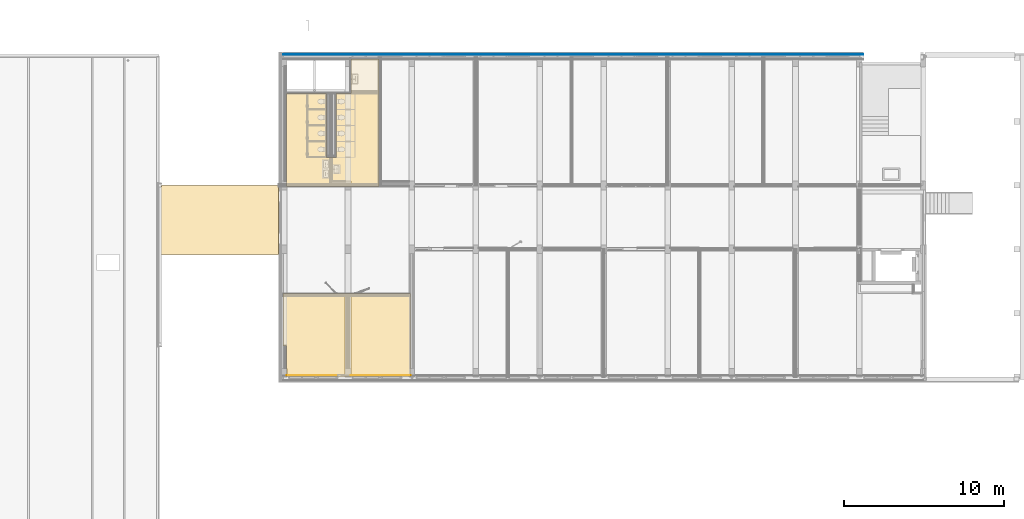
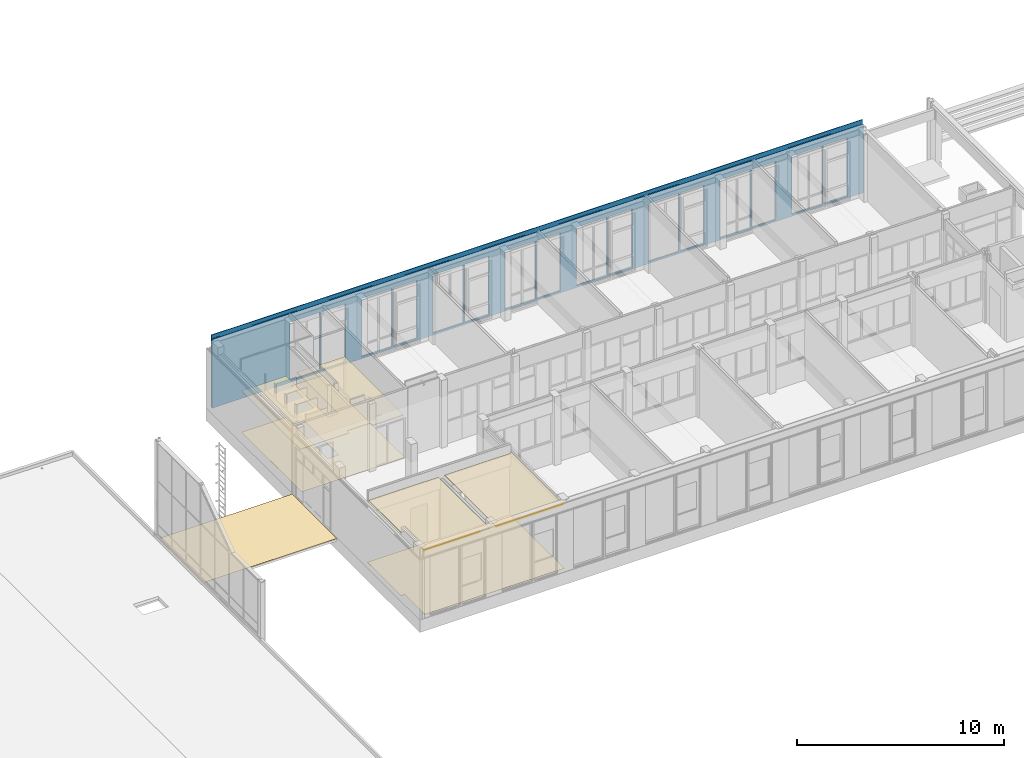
# One storey, part 43 of 54: 8 coverings, 3 building element parts, 16 openings, 1 element without a shape of its own.
"""IFC2X3 building model written with IfcOpenShell, lengths in millimetres."""

from ifc_helpers import new_model, entity, si_unit, converted_unit, derived_unit, money_unit, direction, frame, origin_with_axes, place, context, subcontext, project, spatial, faceted_brep, material, type_object, element, aggregate, save


model = new_model("IFC2X3")

# Units and contexts
model_context = context("Model", 3, precision=0.01, world=origin_with_axes(), true_north=direction((0.0, 1.0)))
body_context = subcontext(model_context, "Body", "Model", "MODEL_VIEW")
ifc_project = project(units=[si_unit("LENGTHUNIT", "METRE", prefix="MILLI"), si_unit("AREAUNIT", "SQUARE_METRE"), si_unit("VOLUMEUNIT", "CUBIC_METRE"), converted_unit("PLANEANGLEUNIT", "DEGREE", entity("IfcPlaneAngleMeasure", 0.0174532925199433), si_unit("PLANEANGLEUNIT", "RADIAN"), dimensions=[0, 0, 0, 0, 0, 0, 0]), money_unit("EUR"), converted_unit("TIMEUNIT", "Year", entity("IfcTimeMeasure", 31557600.0), si_unit("TIMEUNIT", "SECOND"), dimensions=[0, 0, 1, 0, 0, 0, 0]), si_unit("MASSUNIT", "GRAM", prefix="KILO"), si_unit("THERMODYNAMICTEMPERATUREUNIT", "DEGREE_CELSIUS"), si_unit("LUMINOUSINTENSITYUNIT", "LUMEN"), si_unit("ENERGYUNIT", "JOULE", prefix="MEGA"), derived_unit("THERMALCONDUCTANCEUNIT", [(si_unit("POWERUNIT", "WATT"), 1), (si_unit("LENGTHUNIT", "METRE"), -1), (si_unit("THERMODYNAMICTEMPERATUREUNIT", "KELVIN"), -1)]), derived_unit("SPECIFICHEATCAPACITYUNIT", [(si_unit("ENERGYUNIT", "JOULE"), 1), (si_unit("MASSUNIT", "GRAM", prefix="KILO"), -1), (si_unit("THERMODYNAMICTEMPERATUREUNIT", "KELVIN"), -1)]), derived_unit("MASSDENSITYUNIT", [(si_unit("MASSUNIT", "GRAM", prefix="KILO"), 1), (si_unit("VOLUMEUNIT", "CUBIC_METRE"), -1)])], contexts=[model_context])

# Site, building, storey
site_placement = place(None, origin_with_axes())
site = spatial("IfcSite", under=ifc_project, at=site_placement, Name="<site naam>", CompositionType="ELEMENT")
building_placement = place(site_placement, origin_with_axes())
building = spatial("IfcBuilding", under=site, at=building_placement, Name="<Naam gebouw>", CompositionType="ELEMENT")
storey_placement = place(building_placement, frame((0.0, 0.0, 8500.0), z_axis=(0.0, 0.0, 1.0), x_axis=(1.0, 0.0, 0.0)))
storey = spatial("IfcBuildingStorey", under=building, at=storey_placement, Name="02 2e verdieping", CompositionType="ELEMENT", Elevation=8500.0)

# Coverings
ifc_material_1 = material(Name="Gietvloer type 02a")
covering_type_1 = type_object("IfcCoveringType", Name="VA-02a 3", PredefinedType="CEILING")
covering_1_placement = place(storey_placement, frame((12150.00000055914, 11923.61669642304, 0.0), z_axis=(0.0, 0.0, 1.0), x_axis=(1.0, 0.0, 0.0)))
element("IfcCovering", 1, at=covering_1_placement, inside=storey, type_object=covering_type_1, material=ifc_material_1, Name="43_Vloer_VA-02a", PredefinedType="CEILING", context=body_context, shape_type="Brep", body=[
    faceted_brep([(0.0, 0.0, 3.000000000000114), (0.0, 0.0, 0.0), (5774.938324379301, 0.0, 0.0), (5774.938324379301, 0.0, 3.000000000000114), (0.0, 5826.383403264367, 3.000000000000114), (0.0, 5826.383403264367, 0.0), (2499.999999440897, 5826.383303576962, 0.0), (2499.999999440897, 1826.129275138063, 0.0), (3100.000006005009, 1826.381999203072, 0.0), (3100.537600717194, 5826.383303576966, 0.0), (4024.999999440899, 5826.38331123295, 0.0), (4024.999999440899, 8001.383300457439, 0.0), (5774.938324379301, 8001.383300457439, 0.0), (5774.938324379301, 8001.383300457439, 3.000000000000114), (4024.999999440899, 8001.383300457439, 3.000000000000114), (4024.999999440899, 5826.38331123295, 3.000000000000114), (3100.537600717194, 5826.383303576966, 3.000000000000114), (3100.000006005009, 1826.381999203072, 3.000000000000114), (2499.999999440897, 1826.129275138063, 3.000000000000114), (2499.999999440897, 5826.383303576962, 3.000000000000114)], [[[0, 1, 2, 3]], [[4, 5, 1, 0]], [[2, 1, 5, 6, 7, 8, 9, 10, 11, 12]], [[3, 2, 12, 13]], [[4, 0, 3, 13, 14, 15, 16, 17, 18, 19]], [[19, 6, 5, 4]], [[18, 7, 6, 19]], [[17, 8, 7, 18]], [[16, 9, 8, 17]], [[15, 10, 9, 16]], [[14, 11, 10, 15]], [[13, 12, 11, 14]]]),
])
ifc_material_2 = material(Name="systeemplafond 600*600 kleur wit")
covering_type_2 = type_object("IfcCoveringType", Name="PA-01a 40", PredefinedType="CEILING")
covering_2_placement = place(storey_placement, frame((11935.00000000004, 1954.999846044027, 3699.999999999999), z_axis=(0.0, 0.0, 1.0), x_axis=(1.0, 0.0, 0.0)))
element("IfcCovering", 2, at=covering_2_placement, inside=storey, type_object=covering_type_2, material=ifc_material_2, Name="45_Vloer_PA-01a", PredefinedType="CEILING", context=body_context, shape_type="Brep", body=[
    faceted_brep([(3889.999999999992, -1838.999846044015, 0.0), (3889.999999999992, 3132.500153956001, 0.0), (3889.999999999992, 3132.500153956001, 40.00000000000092), (3889.999999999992, -1838.999846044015, 40.00000000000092), (0.0, 0.0, 0.0), (0.0, 3132.500153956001, 0.0), (240.0001570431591, -1838.999846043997, 0.0), (239.9999999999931, -1404.999846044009, 0.0), (214.9999105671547, -1404.999843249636, 0.0), (215.0000676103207, 0.0, 0.0), (0.0, 3132.500153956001, 40.00000000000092), (0.0, 0.0, 40.00000000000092), (215.0000676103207, 0.0, 40.00000000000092), (214.9999105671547, -1404.999843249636, 40.00000000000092), (239.9999999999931, -1404.999846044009, 40.00000000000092), (240.0001570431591, -1838.999846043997, 40.00000000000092)], [[[0, 1, 2, 3]], [[4, 5, 1, 0, 6, 7, 8, 9]], [[5, 10, 2, 1]], [[3, 2, 10, 11, 12, 13, 14, 15]], [[3, 15, 6, 0]], [[11, 10, 5, 4]], [[15, 14, 7, 6]], [[14, 13, 8, 7]], [[13, 12, 9, 8]], [[12, 11, 4, 9]]]),
])
covering_3_placement = place(storey_placement, frame((12150.00000055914, 17749.99999999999, 2400.0), z_axis=(0.0, 0.0, 1.0), x_axis=(1.0, 0.0, 0.0)))
element("IfcCovering", 3, at=covering_3_placement, inside=storey, type_object=covering_type_2, material=ifc_material_2, Name="45_Vloer_PA-01a", PredefinedType="CEILING", context=body_context, shape_type="Brep", body=[
    faceted_brep([(0.0, 0.0, 39.99999999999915), (0.0, 0.0, 0.0), (0.0, -5678.578480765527, 0.0), (0.0, -5678.578480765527, 39.99999999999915), (2499.999990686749, 0.0, 39.99999999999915), (2499.999990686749, 0.0, 0.0), (2499.999990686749, -4000.043348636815, 0.0), (3100.000078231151, -4000.043348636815, 0.0), (3100.000078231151, 0.0, 0.0), (5773.677413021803, 0.0, 0.0), (5773.677413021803, -5678.578480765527, 0.0), (4025.000007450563, -5678.578480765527, 0.0), (4025.000007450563, -5674.999956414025, 0.0), (4025.850309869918, -5674.999956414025, 0.0), (4025.850309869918, -5470.211383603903, 0.0), (2724.993368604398, -5470.211383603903, 0.0), (2724.993368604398, -5674.999956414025, 0.0), (1775.000060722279, -5674.999956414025, 0.0), (1775.000060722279, -5678.578480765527, 0.0), (1775.000060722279, -5678.578480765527, 39.99999999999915), (1775.000060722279, -5674.999956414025, 39.99999999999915), (2724.993368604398, -5674.999956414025, 39.99999999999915), (2724.993368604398, -5470.211383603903, 39.99999999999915), (4025.850309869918, -5470.211383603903, 39.99999999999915), (4025.850309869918, -5674.999956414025, 39.99999999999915), (4025.000007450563, -5674.999956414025, 39.99999999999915), (4025.000007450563, -5678.578480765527, 39.99999999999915), (5773.677413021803, -5678.578480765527, 39.99999999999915), (5773.677413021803, 0.0, 39.99999999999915), (3100.000078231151, 0.0, 39.99999999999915), (3100.000078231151, -4000.043348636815, 39.99999999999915), (2499.999990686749, -4000.043348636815, 39.99999999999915)], [[[0, 1, 2, 3]], [[4, 5, 1, 0]], [[2, 1, 5, 6, 7, 8, 9, 10, 11, 12, 13, 14, 15, 16, 17, 18]], [[3, 2, 18, 19]], [[4, 0, 3, 19, 20, 21, 22, 23, 24, 25, 26, 27, 28, 29, 30, 31]], [[31, 6, 5, 4]], [[30, 7, 6, 31]], [[29, 8, 7, 30]], [[28, 9, 8, 29]], [[27, 10, 9, 28]], [[26, 11, 10, 27]], [[25, 12, 11, 26]], [[24, 13, 12, 25]], [[23, 14, 13, 24]], [[22, 15, 14, 23]], [[21, 16, 15, 22]], [[20, 17, 16, 21]], [[19, 18, 17, 20]]]),
])
covering_4_placement = place(storey_placement, frame((16174.99999741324, 5204.999954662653, 3699.999999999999), z_axis=(0.0, 0.0, 1.0), x_axis=(1.0, 0.0, 0.0)))
element("IfcCovering", 4, at=covering_4_placement, inside=storey, type_object=covering_type_2, material=ifc_material_2, Name="45_Vloer_PA-01a", PredefinedType="CEILING", context=body_context, shape_type="Brep", body=[
    faceted_brep([(3690.000002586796, 0.0, 40.00000000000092), (3690.000002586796, 0.0, 0.0), (3690.000002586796, -117.499954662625, 0.0), (3690.000002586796, -117.499954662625, 40.00000000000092), (3750.000178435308, 0.0, 0.0), (3750.000178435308, 0.0, 40.00000000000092), (0.0, -117.499954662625, 0.0), (3749.999986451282, -5088.99995466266, 0.0), (0.0, -5088.999954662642, 0.0), (0.0, -117.499954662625, 39.99999999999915), (0.0, -5088.999954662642, 40.00000000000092), (3749.999986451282, -5088.99995466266, 40.00000000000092)], [[[0, 1, 2, 3]], [[4, 1, 0, 5]], [[6, 2, 1, 4, 7, 8]], [[6, 9, 3, 2]], [[0, 3, 9, 10, 11, 5]], [[5, 11, 7, 4]], [[11, 10, 8, 7]], [[10, 9, 6, 8]]]),
])
covering_5_placement = place(storey_placement, frame((16174.99999741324, 116.0000000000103, 3699.999999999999), z_axis=(0.0, 0.0, 1.0), x_axis=(1.0, 0.0, 0.0)))
element("IfcCovering", 5, at=covering_5_placement, inside=storey, type_object=covering_type_2, material=ifc_material_2, Name="45_Vloer_PA-01a", PredefinedType="CEILING", context=body_context, shape_type="Brep", body=[
    faceted_brep([(0.0, 0.0, 40.00000000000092), (0.0, -6.500000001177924, 40.00000000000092), (3749.999986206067, -6.500000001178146, 40.00000000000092), (3749.999986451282, 0.0, 40.00000000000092), (0.0, 0.0, 0.0), (0.0, -6.500000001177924, 0.0), (3749.999986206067, -6.500000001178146, 0.0), (3749.999986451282, 0.0, 0.0)], [[[0, 1, 2, 3]], [[4, 5, 1, 0]], [[5, 6, 2, 1]], [[3, 2, 6, 7]], [[0, 3, 7, 4]], [[7, 6, 5, 4]]]),
])
covering_6_placement = place(storey_placement, frame((12175.0001570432, 116.00000000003, 3699.999999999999), z_axis=(0.0, 0.0, 1.0), x_axis=(1.0, 0.0, 0.0)))
element("IfcCovering", 6, at=covering_6_placement, inside=storey, type_object=covering_type_2, material=ifc_material_2, Name="45_Vloer_PA-01a", PredefinedType="CEILING", context=body_context, shape_type="Brep", body=[
    faceted_brep([(0.0, 0.0, 40.00000000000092), (0.0, -6.500000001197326, 40.00000000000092), (3091.999842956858, -6.50000000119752, 40.00000000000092), (3091.999842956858, 0.0, 40.00000000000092), (0.0, 0.0, 0.0), (0.0, -6.500000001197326, 0.0), (3091.999842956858, -6.50000000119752, 0.0), (3091.999842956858, 0.0, 0.0)], [[[0, 1, 2, 3]], [[4, 5, 1, 0]], [[5, 6, 2, 1]], [[3, 2, 6, 7]], [[0, 3, 7, 4]], [[7, 6, 5, 4]]]),
])
ifc_material_3 = material(Name="tapijttegel")
covering_type_3 = type_object("IfcCoveringType", Name="VA-05 3", PredefinedType="CEILING")
covering_7_placement = place(storey_placement, frame((11935.00006938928, 5223.199663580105, 0.0), z_axis=(0.0, 0.0, 1.0), x_axis=(1.0, 0.0, 0.0)))
element("IfcCovering", 7, at=covering_7_placement, inside=storey, type_object=covering_type_3, material=ifc_material_3, Name="43_Vloer_VA-05", PredefinedType="CEILING", context=body_context, shape_type="Brep", body=[
    faceted_brep([(0.0, 0.0, 3.000000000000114), (0.0, 0.0, 0.0), (0.0, -3268.19969881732, 0.0), (0.0, -3268.19969881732, 3.000000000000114), (7989.998683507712, 4.131143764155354, 3.000000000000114), (7989.998683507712, 4.131143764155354, 0.0), (7990.064561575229, -123.1996560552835, 0.0), (7989.999916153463, -123.1996560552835, 0.0), (7989.999916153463, -5223.199695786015, 0.0), (214.9999898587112, -5223.199695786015, 0.0), (214.9999898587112, -3268.19969881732, 0.0), (214.9999898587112, -3268.19969881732, 3.000000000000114), (214.9999898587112, -5223.199695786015, 3.000000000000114), (7989.999916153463, -5223.199695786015, 3.000000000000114), (7989.999916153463, -123.1996560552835, 3.000000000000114), (7990.064561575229, -123.1996560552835, 3.000000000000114)], [[[0, 1, 2, 3]], [[4, 5, 1, 0]], [[2, 1, 5, 6, 7, 8, 9, 10]], [[3, 2, 10, 11]], [[4, 0, 3, 11, 12, 13, 14, 15]], [[15, 6, 5, 4]], [[14, 7, 6, 15]], [[13, 8, 7, 14]], [[12, 9, 8, 13]], [[11, 10, 9, 12]]]),
])
ifc_material_4 = material(Name="Behoud natuursteen tegels")
covering_type_4 = type_object("IfcCoveringType", Name="VA-06 3", PredefinedType="CEILING")
covering_8_placement = place(storey_placement, frame((4270.04446815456, 7680.000000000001, 0.0), z_axis=(0.0, 0.0, 1.0), x_axis=(1.0, 0.0, 0.0)))
element("IfcCovering", 8, at=covering_8_placement, inside=storey, type_object=covering_type_4, material=ifc_material_4, Name="43_Vloer_VA-06", PredefinedType="CEILING", context=body_context, shape_type="Brep", body=[
    faceted_brep([(7394.955531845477, 4320.000000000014, 0.0), (54.45568861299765, 4320.000000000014, 0.0), (54.45568861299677, 4320.000000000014, 3.000000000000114), (7394.955531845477, 4320.000000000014, 3.000000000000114), (0.0, 4220.978752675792, 0.0), (54.4556888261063, 4220.978752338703, 0.0), (7394.955531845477, 0.0, 0.0), (0.0, 0.0, 0.0), (54.4556888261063, 4220.978752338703, 3.000000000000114), (0.0, 4220.978752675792, 3.000000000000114), (0.0, 0.0, 3.000000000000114), (7394.955531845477, 0.0, 3.000000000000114)], [[[0, 1, 2, 3]], [[4, 5, 1, 0, 6, 7]], [[5, 8, 2, 1]], [[2, 8, 9, 10, 11, 3]], [[3, 11, 6, 0]], [[4, 9, 8, 5]], [[11, 10, 7, 6]], [[10, 9, 4, 7]]]),
])

# Wall, openings, building element parts
wall_type = type_object("IfcWallType", Name="HSB_285 gevelbeplating 420", PredefinedType="NOTDEFINED")
wall_placement = place(storey_placement, frame((48251.99999966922, 20297.99999999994, 0.0), z_axis=(0.0, 0.0, 1.0), x_axis=(-1.0, 0.0, 0.0)))
wall = element("IfcWall", 9, at=wall_placement, inside=storey, type_object=wall_type, Name="21_Binnenwand_HSB_285")
opening_1_placement = place(wall_placement, frame((1551.00001094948, 0.0, 99.99999999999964), z_axis=(0.0, 0.0, 1.0), x_axis=(1.0, 0.0, 0.0)))
element("IfcOpeningElement", 10, at=opening_1_placement, cuts=wall, Name="21_BU-A-22b sp_305", context=body_context, shape_type="Brep", body=[
    faceted_brep([(662.9999999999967, 213.000000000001, 3450.000000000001), (-662.9999999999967, 213.000000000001, 3450.000000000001), (-662.9999999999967, -1.000000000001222, 3450.000000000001), (662.9999999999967, -1.000000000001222, 3450.000000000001), (662.9999999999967, 421.000000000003, 3450.000000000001), (-662.9999999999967, 421.000000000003, 3450.000000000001), (-662.9999999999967, 213.000000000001, 0.0), (-662.9999999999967, -1.000000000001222, 0.0), (662.9999999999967, -1.000000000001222, 0.0), (662.9999999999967, 213.000000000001, 0.0), (662.9999999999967, 421.000000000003, 0.0), (-662.9999999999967, 421.000000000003, 0.0)], [[[0, 1, 2, 3]], [[1, 0, 4, 5]], [[1, 6, 7, 2]], [[2, 7, 8, 3]], [[9, 0, 3, 8]], [[0, 9, 10, 4]], [[4, 10, 11, 5]], [[6, 1, 5, 11]], [[6, 9, 8, 7]], [[9, 6, 11, 10]]]),
])
opening_2_placement = place(wall_placement, frame((3141.000024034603, 0.0, 99.99999999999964), z_axis=(0.0, 0.0, 1.0), x_axis=(1.0, 0.0, 0.0)))
element("IfcOpeningElement", 11, at=opening_2_placement, cuts=wall, Name="21_BU-A-22a sp_305", context=body_context, shape_type="Brep", body=[
    faceted_brep([(850.9999999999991, 213.000000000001, 3450.000000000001), (-850.9999999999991, 213.000000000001, 3450.000000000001), (-850.9999999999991, -1.000000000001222, 3450.000000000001), (850.9999999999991, -1.000000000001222, 3450.000000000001), (850.9999999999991, 421.000000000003, 3450.000000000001), (-850.9999999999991, 421.000000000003, 3450.000000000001), (-850.9999999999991, 213.000000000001, 0.0), (-850.9999999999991, -1.000000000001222, 0.0), (850.9999999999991, -1.000000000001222, 0.0), (850.9999999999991, 213.000000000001, 0.0), (850.9999999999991, 421.000000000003, 0.0), (-850.9999999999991, 421.000000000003, 0.0)], [[[0, 1, 2, 3]], [[1, 0, 4, 5]], [[1, 6, 7, 2]], [[2, 7, 8, 3]], [[9, 0, 3, 8]], [[0, 9, 10, 4]], [[4, 10, 11, 5]], [[6, 1, 5, 11]], [[6, 9, 8, 7]], [[9, 6, 11, 10]]]),
])
opening_3_placement = place(wall_placement, frame((7140.999999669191, 0.0, 99.99999999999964), z_axis=(0.0, 0.0, 1.0), x_axis=(1.0, 0.0, 0.0)))
element("IfcOpeningElement", 12, at=opening_3_placement, cuts=wall, Name="21_BU-A-22a sp_305", context=body_context, shape_type="Brep", body=[
    faceted_brep([(850.9999999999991, 213.000000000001, 3450.000000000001), (-850.9999999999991, 213.000000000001, 3450.000000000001), (-850.9999999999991, -1.000000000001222, 3450.000000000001), (850.9999999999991, -1.000000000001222, 3450.000000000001), (850.9999999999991, 421.000000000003, 3450.000000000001), (-850.9999999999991, 421.000000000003, 3450.000000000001), (-850.9999999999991, 213.000000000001, 0.0), (-850.9999999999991, -1.000000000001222, 0.0), (850.9999999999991, -1.000000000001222, 0.0), (850.9999999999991, 213.000000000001, 0.0), (850.9999999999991, 421.000000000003, 0.0), (-850.9999999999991, 421.000000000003, 0.0)], [[[0, 1, 2, 3]], [[1, 0, 4, 5]], [[1, 6, 7, 2]], [[2, 7, 8, 3]], [[9, 0, 3, 8]], [[0, 9, 10, 4]], [[4, 10, 11, 5]], [[6, 1, 5, 11]], [[6, 9, 8, 7]], [[9, 6, 11, 10]]]),
])
opening_4_placement = place(wall_placement, frame((11140.99999966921, 0.0, 99.99999999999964), z_axis=(0.0, 0.0, 1.0), x_axis=(1.0, 0.0, 0.0)))
element("IfcOpeningElement", 13, at=opening_4_placement, cuts=wall, Name="21_BU-A-22a sp_305", context=body_context, shape_type="Brep", body=[
    faceted_brep([(850.9999999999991, 213.000000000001, 3450.000000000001), (-850.9999999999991, 213.000000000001, 3450.000000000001), (-850.9999999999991, -1.000000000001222, 3450.000000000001), (850.9999999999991, -1.000000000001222, 3450.000000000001), (850.9999999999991, 421.000000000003, 3450.000000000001), (-850.9999999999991, 421.000000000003, 3450.000000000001), (-850.9999999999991, 213.000000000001, 0.0), (-850.9999999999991, -1.000000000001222, 0.0), (850.9999999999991, -1.000000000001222, 0.0), (850.9999999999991, 213.000000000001, 0.0), (850.9999999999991, 421.000000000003, 0.0), (-850.9999999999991, 421.000000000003, 0.0)], [[[0, 1, 2, 3]], [[1, 0, 4, 5]], [[1, 6, 7, 2]], [[2, 7, 8, 3]], [[9, 0, 3, 8]], [[0, 9, 10, 4]], [[4, 10, 11, 5]], [[6, 1, 5, 11]], [[6, 9, 8, 7]], [[9, 6, 11, 10]]]),
])
opening_5_placement = place(wall_placement, frame((9550.999999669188, 0.0, 99.99999999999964), z_axis=(0.0, 0.0, 1.0), x_axis=(1.0, 0.0, 0.0)))
element("IfcOpeningElement", 14, at=opening_5_placement, cuts=wall, Name="21_BU-A-22b sp_305", context=body_context, shape_type="Brep", body=[
    faceted_brep([(662.9999999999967, 213.000000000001, 3450.000000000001), (-662.9999999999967, 213.000000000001, 3450.000000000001), (-662.9999999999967, -1.000000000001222, 3450.000000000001), (662.9999999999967, -1.000000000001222, 3450.000000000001), (662.9999999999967, 421.000000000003, 3450.000000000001), (-662.9999999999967, 421.000000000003, 3450.000000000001), (-662.9999999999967, 213.000000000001, 0.0), (-662.9999999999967, -1.000000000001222, 0.0), (662.9999999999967, -1.000000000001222, 0.0), (662.9999999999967, 213.000000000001, 0.0), (662.9999999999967, 421.000000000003, 0.0), (-662.9999999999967, 421.000000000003, 0.0)], [[[0, 1, 2, 3]], [[1, 0, 4, 5]], [[1, 6, 7, 2]], [[2, 7, 8, 3]], [[9, 0, 3, 8]], [[0, 9, 10, 4]], [[4, 10, 11, 5]], [[6, 1, 5, 11]], [[6, 9, 8, 7]], [[9, 6, 11, 10]]]),
])
opening_6_placement = place(wall_placement, frame((5550.999999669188, 0.0, 99.99999999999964), z_axis=(0.0, 0.0, 1.0), x_axis=(1.0, 0.0, 0.0)))
element("IfcOpeningElement", 15, at=opening_6_placement, cuts=wall, Name="21_BU-A-22b sp_305", context=body_context, shape_type="Brep", body=[
    faceted_brep([(662.9999999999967, 213.000000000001, 3450.000000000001), (-662.9999999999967, 213.000000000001, 3450.000000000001), (-662.9999999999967, -1.000000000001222, 3450.000000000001), (662.9999999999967, -1.000000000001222, 3450.000000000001), (662.9999999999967, 421.000000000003, 3450.000000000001), (-662.9999999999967, 421.000000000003, 3450.000000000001), (-662.9999999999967, 213.000000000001, 0.0), (-662.9999999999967, -1.000000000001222, 0.0), (662.9999999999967, -1.000000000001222, 0.0), (662.9999999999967, 213.000000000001, 0.0), (662.9999999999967, 421.000000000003, 0.0), (-662.9999999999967, 421.000000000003, 0.0)], [[[0, 1, 2, 3]], [[1, 0, 4, 5]], [[1, 6, 7, 2]], [[2, 7, 8, 3]], [[9, 0, 3, 8]], [[0, 9, 10, 4]], [[4, 10, 11, 5]], [[6, 1, 5, 11]], [[6, 9, 8, 7]], [[9, 6, 11, 10]]]),
])
opening_7_placement = place(wall_placement, frame((13550.99999966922, 0.0, 99.99999999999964), z_axis=(0.0, 0.0, 1.0), x_axis=(1.0, 0.0, 0.0)))
element("IfcOpeningElement", 16, at=opening_7_placement, cuts=wall, Name="21_BU-A-22b sp_305", context=body_context, shape_type="Brep", body=[
    faceted_brep([(662.9999999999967, 213.000000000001, 3450.000000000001), (-662.9999999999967, 213.000000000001, 3450.000000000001), (-662.9999999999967, -1.000000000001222, 3450.000000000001), (662.9999999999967, -1.000000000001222, 3450.000000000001), (662.9999999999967, 421.000000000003, 3450.000000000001), (-662.9999999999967, 421.000000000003, 3450.000000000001), (-662.9999999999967, 213.000000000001, 0.0), (-662.9999999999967, -1.000000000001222, 0.0), (662.9999999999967, -1.000000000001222, 0.0), (662.9999999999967, 213.000000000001, 0.0), (662.9999999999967, 421.000000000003, 0.0), (-662.9999999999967, 421.000000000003, 0.0)], [[[0, 1, 2, 3]], [[1, 0, 4, 5]], [[1, 6, 7, 2]], [[2, 7, 8, 3]], [[9, 0, 3, 8]], [[0, 9, 10, 4]], [[4, 10, 11, 5]], [[6, 1, 5, 11]], [[6, 9, 8, 7]], [[9, 6, 11, 10]]]),
])
opening_8_placement = place(wall_placement, frame((19140.98053610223, 0.0, 99.99999999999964), z_axis=(0.0, 0.0, 1.0), x_axis=(1.0, 0.0, 0.0)))
element("IfcOpeningElement", 17, at=opening_8_placement, cuts=wall, Name="21_BU-A-22a sp_305", context=body_context, shape_type="Brep", body=[
    faceted_brep([(850.9999999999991, 212.9999999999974, 3450.000000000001), (-850.9999999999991, 212.9999999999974, 3450.000000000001), (-850.9999999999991, -1.000000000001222, 3450.000000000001), (850.9999999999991, -1.000000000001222, 3450.000000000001), (850.9999999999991, 421.000000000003, 3450.000000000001), (-850.9999999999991, 421.000000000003, 3450.000000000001), (-850.9999999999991, 212.9999999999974, 0.0), (-850.9999999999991, -1.000000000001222, 0.0), (850.9999999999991, -1.000000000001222, 0.0), (850.9999999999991, 212.9999999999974, 0.0), (850.9999999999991, 421.000000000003, 0.0), (-850.9999999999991, 421.000000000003, 0.0)], [[[0, 1, 2, 3]], [[1, 0, 4, 5]], [[1, 6, 7, 2]], [[2, 7, 8, 3]], [[9, 0, 3, 8]], [[0, 9, 10, 4]], [[4, 10, 11, 5]], [[6, 1, 5, 11]], [[6, 9, 8, 7]], [[9, 6, 11, 10]]]),
])
opening_9_placement = place(wall_placement, frame((17550.99999966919, 0.0, 99.99999999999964), z_axis=(0.0, 0.0, 1.0), x_axis=(1.0, 0.0, 0.0)))
element("IfcOpeningElement", 18, at=opening_9_placement, cuts=wall, Name="21_BU-A-22b sp_305", context=body_context, shape_type="Brep", body=[
    faceted_brep([(663.0000000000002, 212.9999999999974, 3450.000000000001), (-663.0000000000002, 212.9999999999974, 3450.000000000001), (-663.0000000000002, -1.000000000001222, 3450.000000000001), (663.0000000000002, -1.000000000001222, 3450.000000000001), (663.0000000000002, 421.000000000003, 3450.000000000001), (-663.0000000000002, 421.000000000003, 3450.000000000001), (-663.0000000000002, 212.9999999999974, 0.0), (-663.0000000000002, -1.000000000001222, 0.0), (663.0000000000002, -1.000000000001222, 0.0), (663.0000000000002, 212.9999999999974, 0.0), (663.0000000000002, 421.000000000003, 0.0), (-663.0000000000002, 421.000000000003, 0.0)], [[[0, 1, 2, 3]], [[1, 0, 4, 5]], [[1, 6, 7, 2]], [[2, 7, 8, 3]], [[9, 0, 3, 8]], [[0, 9, 10, 4]], [[4, 10, 11, 5]], [[6, 1, 5, 11]], [[6, 9, 8, 7]], [[9, 6, 11, 10]]]),
])
opening_10_placement = place(wall_placement, frame((23141.0125073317, 0.0, 99.99999999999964), z_axis=(0.0, 0.0, 1.0), x_axis=(1.0, 0.0, 0.0)))
element("IfcOpeningElement", 19, at=opening_10_placement, cuts=wall, Name="21_BU-A-22a sp_305", context=body_context, shape_type="Brep", body=[
    faceted_brep([(850.9999999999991, 212.9999999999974, 3450.000000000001), (-850.9999999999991, 212.9999999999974, 3450.000000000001), (-850.9999999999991, -1.000000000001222, 3450.000000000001), (850.9999999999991, -1.000000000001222, 3450.000000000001), (850.9999999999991, 421.000000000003, 3450.000000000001), (-850.9999999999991, 421.000000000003, 3450.000000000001), (-850.9999999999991, 212.9999999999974, 0.0), (-850.9999999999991, -1.000000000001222, 0.0), (850.9999999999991, -1.000000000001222, 0.0), (850.9999999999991, 212.9999999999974, 0.0), (850.9999999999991, 421.000000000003, 0.0), (-850.9999999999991, 421.000000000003, 0.0)], [[[0, 1, 2, 3]], [[1, 0, 4, 5]], [[1, 6, 7, 2]], [[2, 7, 8, 3]], [[9, 0, 3, 8]], [[0, 9, 10, 4]], [[4, 10, 11, 5]], [[6, 1, 5, 11]], [[6, 9, 8, 7]], [[9, 6, 11, 10]]]),
])
opening_11_placement = place(wall_placement, frame((27140.99995093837, 0.0, 99.99999999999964), z_axis=(0.0, 0.0, 1.0), x_axis=(1.0, 0.0, 0.0)))
element("IfcOpeningElement", 20, at=opening_11_placement, cuts=wall, Name="21_BU-A-22a sp_305", context=body_context, shape_type="Brep", body=[
    faceted_brep([(850.9999999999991, 212.9999999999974, 3450.000000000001), (-850.9999999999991, 212.9999999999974, 3450.000000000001), (-850.9999999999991, -1.000000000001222, 3450.000000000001), (850.9999999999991, -1.000000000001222, 3450.000000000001), (850.9999999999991, 421.000000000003, 3450.000000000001), (-850.9999999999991, 421.000000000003, 3450.000000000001), (-850.9999999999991, 212.9999999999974, 0.0), (-850.9999999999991, -1.000000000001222, 0.0), (850.9999999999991, -1.000000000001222, 0.0), (850.9999999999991, 212.9999999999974, 0.0), (850.9999999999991, 421.000000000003, 0.0), (-850.9999999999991, 421.000000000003, 0.0)], [[[0, 1, 2, 3]], [[1, 0, 4, 5]], [[1, 6, 7, 2]], [[2, 7, 8, 3]], [[9, 0, 3, 8]], [[0, 9, 10, 4]], [[4, 10, 11, 5]], [[6, 1, 5, 11]], [[6, 9, 8, 7]], [[9, 6, 11, 10]]]),
])
opening_12_placement = place(wall_placement, frame((21550.98053610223, 0.0, 99.99999999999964), z_axis=(0.0, 0.0, 1.0), x_axis=(1.0, 0.0, 0.0)))
element("IfcOpeningElement", 21, at=opening_12_placement, cuts=wall, Name="21_BU-A-22b sp_305", context=body_context, shape_type="Brep", body=[
    faceted_brep([(663.0000000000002, 212.9999999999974, 3450.000000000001), (-663.0000000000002, 212.9999999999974, 3450.000000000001), (-663.0000000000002, -1.000000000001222, 3450.000000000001), (663.0000000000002, -1.000000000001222, 3450.000000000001), (663.0000000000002, 421.000000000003, 3450.000000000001), (-663.0000000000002, 421.000000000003, 3450.000000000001), (-663.0000000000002, 212.9999999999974, 0.0), (-663.0000000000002, -1.000000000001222, 0.0), (663.0000000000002, -1.000000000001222, 0.0), (663.0000000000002, 212.9999999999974, 0.0), (663.0000000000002, 421.000000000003, 0.0), (-663.0000000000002, 421.000000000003, 0.0)], [[[0, 1, 2, 3]], [[1, 0, 4, 5]], [[1, 6, 7, 2]], [[2, 7, 8, 3]], [[9, 0, 3, 8]], [[0, 9, 10, 4]], [[4, 10, 11, 5]], [[6, 1, 5, 11]], [[6, 9, 8, 7]], [[9, 6, 11, 10]]]),
])
opening_13_placement = place(wall_placement, frame((25550.99999966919, 0.0, 99.99999999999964), z_axis=(0.0, 0.0, 1.0), x_axis=(1.0, 0.0, 0.0)))
element("IfcOpeningElement", 22, at=opening_13_placement, cuts=wall, Name="21_BU-A-22b sp_305", context=body_context, shape_type="Brep", body=[
    faceted_brep([(663.0000000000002, 212.9999999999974, 3450.000000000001), (-663.0000000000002, 212.9999999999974, 3450.000000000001), (-663.0000000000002, -1.000000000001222, 3450.000000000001), (663.0000000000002, -1.000000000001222, 3450.000000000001), (663.0000000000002, 421.000000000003, 3450.000000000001), (-663.0000000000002, 421.000000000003, 3450.000000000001), (-663.0000000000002, 212.9999999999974, 0.0), (-663.0000000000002, -1.000000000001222, 0.0), (663.0000000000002, -1.000000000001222, 0.0), (663.0000000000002, 212.9999999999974, 0.0), (663.0000000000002, 421.000000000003, 0.0), (-663.0000000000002, 421.000000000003, 0.0)], [[[0, 1, 2, 3]], [[1, 0, 4, 5]], [[1, 6, 7, 2]], [[2, 7, 8, 3]], [[9, 0, 3, 8]], [[0, 9, 10, 4]], [[4, 10, 11, 5]], [[6, 1, 5, 11]], [[6, 9, 8, 7]], [[9, 6, 11, 10]]]),
])
opening_14_placement = place(wall_placement, frame((29551.00001094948, 0.0, 99.99999999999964), z_axis=(0.0, 0.0, 1.0), x_axis=(1.0, 0.0, 0.0)))
element("IfcOpeningElement", 23, at=opening_14_placement, cuts=wall, Name="21_BU-A-22b sp_305", context=body_context, shape_type="Brep", body=[
    faceted_brep([(663.0000000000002, 212.9999999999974, 3450.000000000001), (-663.0000000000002, 212.9999999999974, 3450.000000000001), (-663.0000000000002, -1.000000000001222, 3450.000000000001), (663.0000000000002, -1.000000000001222, 3450.000000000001), (663.0000000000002, 421.000000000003, 3450.000000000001), (-663.0000000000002, 421.000000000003, 3450.000000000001), (-663.0000000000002, 212.9999999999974, 0.0), (-663.0000000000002, -1.000000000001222, 0.0), (663.0000000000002, -1.000000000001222, 0.0), (663.0000000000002, 212.9999999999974, 0.0), (663.0000000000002, 421.000000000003, 0.0), (-663.0000000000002, 421.000000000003, 0.0)], [[[0, 1, 2, 3]], [[1, 0, 4, 5]], [[1, 6, 7, 2]], [[2, 7, 8, 3]], [[9, 0, 3, 8]], [[0, 9, 10, 4]], [[4, 10, 11, 5]], [[6, 1, 5, 11]], [[6, 9, 8, 7]], [[9, 6, 11, 10]]]),
])
opening_15_placement = place(wall_placement, frame((15140.99998838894, 0.0, 99.99999999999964), z_axis=(0.0, 0.0, 1.0), x_axis=(1.0, 0.0, 0.0)))
element("IfcOpeningElement", 24, at=opening_15_placement, cuts=wall, Name="21_BU-A-22a sp_305", context=body_context, shape_type="Brep", body=[
    faceted_brep([(850.9999999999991, 212.9999999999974, 3450.000000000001), (-850.9999999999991, 212.9999999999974, 3450.000000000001), (-850.9999999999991, -1.000000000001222, 3450.000000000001), (850.9999999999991, -1.000000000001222, 3450.000000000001), (850.9999999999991, 421.000000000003, 3450.000000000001), (-850.9999999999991, 421.000000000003, 3450.000000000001), (-850.9999999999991, 212.9999999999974, 0.0), (-850.9999999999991, -1.000000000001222, 0.0), (850.9999999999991, -1.000000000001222, 0.0), (850.9999999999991, 212.9999999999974, 0.0), (850.9999999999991, 421.000000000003, 0.0), (-850.9999999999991, 421.000000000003, 0.0)], [[[0, 1, 2, 3]], [[1, 0, 4, 5]], [[1, 6, 7, 2]], [[2, 7, 8, 3]], [[9, 0, 3, 8]], [[0, 9, 10, 4]], [[4, 10, 11, 5]], [[6, 1, 5, 11]], [[6, 9, 8, 7]], [[9, 6, 11, 10]]]),
])
opening_16_placement = place(wall_placement, frame((31140.99993875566, 0.0, 99.99999999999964), z_axis=(0.0, 0.0, 1.0), x_axis=(1.0, 0.0, 0.0)))
element("IfcOpeningElement", 25, at=opening_16_placement, cuts=wall, Name="21_BU-A-22a sp_305", context=body_context, shape_type="Brep", body=[
    faceted_brep([(850.9999999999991, 212.9999999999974, 3450.000000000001), (-850.9999999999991, 212.9999999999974, 3450.000000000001), (-850.9999999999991, -1.000000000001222, 3450.000000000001), (850.9999999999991, -1.000000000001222, 3450.000000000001), (850.9999999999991, 421.000000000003, 3450.000000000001), (-850.9999999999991, 421.000000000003, 3450.000000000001), (-850.9999999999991, 212.9999999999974, 0.0), (-850.9999999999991, -1.000000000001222, 0.0), (850.9999999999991, -1.000000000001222, 0.0), (850.9999999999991, 212.9999999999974, 0.0), (850.9999999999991, 421.000000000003, 0.0), (-850.9999999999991, 421.000000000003, 0.0)], [[[0, 1, 2, 3]], [[1, 0, 4, 5]], [[1, 6, 7, 2]], [[2, 7, 8, 3]], [[9, 0, 3, 8]], [[0, 9, 10, 4]], [[4, 10, 11, 5]], [[6, 1, 5, 11]], [[6, 9, 8, 7]], [[9, 6, 11, 10]]]),
])
ifc_material_5 = material(Name="brandwerende_bekleding")
building_element_part_1_placement = place(wall_placement, origin_with_axes())
building_element_part_1 = element("IfcBuildingElementPart", 26, at=building_element_part_1_placement, material=ifc_material_5, Name="brandwerende_bekleding", context=body_context, shape_type="Brep", body=[
    faceted_brep([(36316.99999966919, 102.4999999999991, 4050.000014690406), (0.0, 102.4999999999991, 4050.000014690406), (0.0, 102.4999999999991, 0.0), (36316.99999966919, 102.4999999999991, 0.0), (0.0, 106.9999999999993, 4050.000014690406), (36316.99999966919, 106.9999999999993, 4050.000014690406), (0.0, 106.9999999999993, 0.0), (36316.99999966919, 106.9999999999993, 0.0)], [[[0, 1, 2, 3]], [[4, 1, 0, 5]], [[1, 4, 6, 2]], [[6, 7, 3, 2]], [[5, 0, 3, 7]], [[4, 5, 7, 6]]]),
])
ifc_material_6 = material(Name="metaal - Aluminium gevelplaat")
building_element_part_2_placement = place(wall_placement, origin_with_axes())
building_element_part_2 = element("IfcBuildingElementPart", 27, at=building_element_part_2_placement, material=ifc_material_6, Name="metaal - Aluminium gevelplaat", context=body_context, shape_type="Brep", body=[
    faceted_brep([(36316.99999966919, 32.99999999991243, 4270.0), (0.0, 32.99999999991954, 4270.0), (0.0, 0.0, 4270.0), (36316.99999966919, 0.0, 4270.0), (0.0, 32.99999999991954, 4050.000014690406), (36316.99999966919, 32.99999999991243, 4050.000014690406), (0.0, 39.99999999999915, 4050.000014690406), (0.0, 39.99999999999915, 0.0), (0.0, 0.0, 0.0), (36316.99999966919, 0.0, 0.0), (36316.99999966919, 39.99999999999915, 0.0), (36316.99999966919, 39.99999999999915, 4050.000014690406)], [[[0, 1, 2, 3]], [[4, 1, 0, 5]], [[4, 6, 7, 8, 2, 1]], [[8, 9, 3, 2]], [[5, 0, 3, 9, 10, 11]], [[6, 4, 5, 11]], [[6, 11, 10, 7]], [[7, 10, 9, 8]]]),
])
ifc_material_7 = material(Name="folie_dampopen")
building_element_part_3_placement = place(wall_placement, origin_with_axes())
building_element_part_3 = element("IfcBuildingElementPart", 28, at=building_element_part_3_placement, material=ifc_material_7, Name="folie_dampopen", context=body_context, shape_type="Brep", body=[
    faceted_brep([(36316.99999966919, 101.9999999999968, 4050.000014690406), (0.0, 102.0000000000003, 4050.000014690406), (0.0, 102.0000000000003, 0.0), (36316.99999966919, 101.9999999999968, 0.0), (0.0, 102.4999999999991, 4050.000014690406), (36316.99999966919, 102.4999999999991, 4050.000014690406), (0.0, 102.4999999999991, 0.0), (36316.99999966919, 102.4999999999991, 0.0)], [[[0, 1, 2, 3]], [[4, 1, 0, 5]], [[1, 4, 6, 2]], [[6, 7, 3, 2]], [[5, 0, 3, 7]], [[4, 5, 7, 6]]]),
])
aggregate(wall, [building_element_part_1, building_element_part_2, building_element_part_3])

save(model, "model.ifc")
